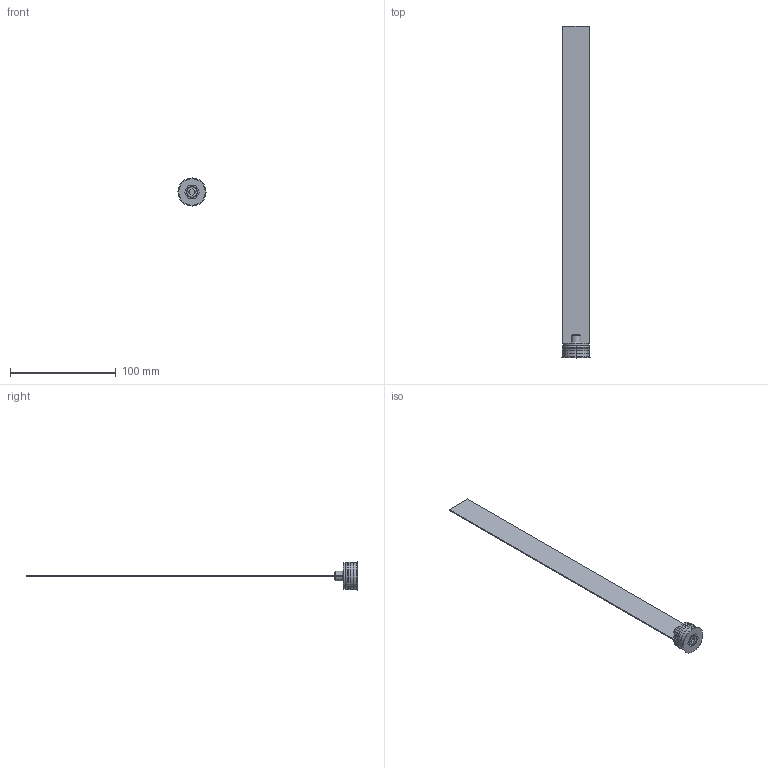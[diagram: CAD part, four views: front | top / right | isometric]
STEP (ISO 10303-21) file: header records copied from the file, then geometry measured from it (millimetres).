
FILE_DESCRIPTION (( 'STEP AP203' ), '1' );
FILE_NAME ('RL-25Fx300.STEP', '2015-12-04T07:17:39', ( 'Balzi' ), ( '' ), 'SwSTEP 2.0', 'SolidWorks 2015', '' );
FILE_SCHEMA (( 'CONFIG_CONTROL_DESIGN' ));
Length unit declared in the file: millimetre
Products named in the file (1): RL-25Fx300
Bounding box: 26.5 x 314 x 26.5 mm (x, y, z)
Volume: 14394.3 mm3; surface area: 18440.3 mm2
Topology: 1 solids, 1 shells, 75 faces, 177 edges, 109 vertices
Faces by surface type: plane 31, cone 19, cylinder 17, torus 8
Entity records: 2245 total; most frequent: CARTESIAN_POINT 412, DIRECTION 386, ORIENTED_EDGE 354, EDGE_CURVE 177, AXIS2_PLACEMENT_3D 147, VERTEX_POINT 109, VECTOR 92, LINE 92
